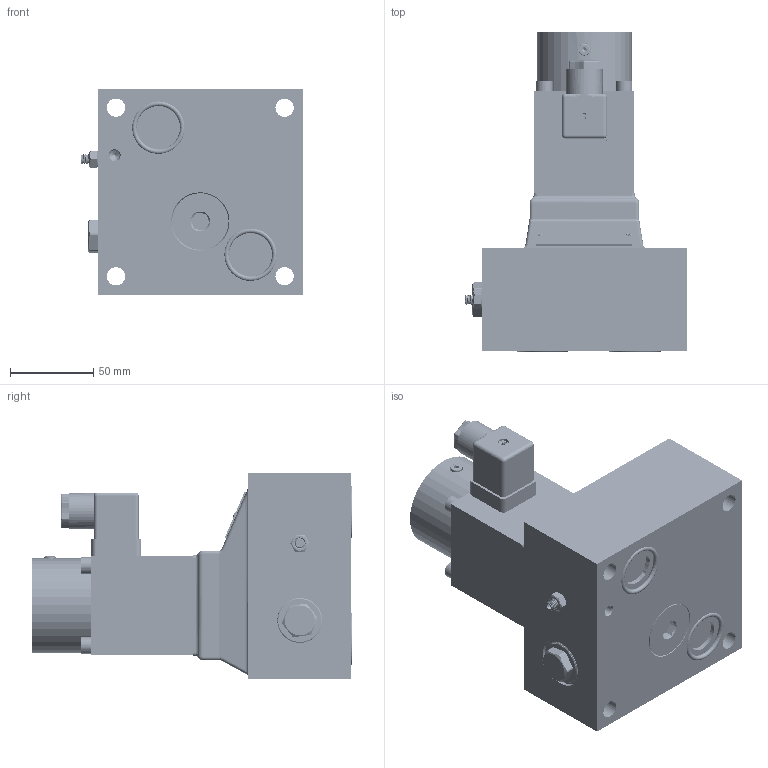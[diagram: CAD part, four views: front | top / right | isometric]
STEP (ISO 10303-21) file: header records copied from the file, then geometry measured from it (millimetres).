
FILE_DESCRIPTION(/* description */ (''),/* implementation_level */ '2;1');
FILE_NAME(/* name */ '2FRA16-4XJ.stp',/* time_stamp */ '2024-10-22T13:14:32+08:00',/* author */ (''),/* organization */ (''),/* preprocessor_version */ 'ST-DEVELOPER v16.7',/* originating_system */ 'SIEMENS PLM Software NX 12.0',/* authorisation */ '');
FILE_SCHEMA (('AUTOMOTIVE_DESIGN { 1 0 10303 214 3 1 1 1 }'));
Products named in the file (1): 2FRA16-4XJ
Bounding box: 133.5 x 193.2 x 123.5 mm (x, y, z)
Volume: 1446771.1 mm3; surface area: 179279.2 mm2
Topology: 35 solids, 38 shells, 965 faces, 2277 edges, 1432 vertices
Faces by surface type: plane 430, cylinder 320, bspline 91, cone 66, torus 45, sphere 13
Full cylindrical faces by diameter (mm): 1.5 x2, 1.8 x4, 2 x2, 3 x41, 3.5 x1, 4 x2, 4.917 x56, 5 x4, 5.7 x1, 6 x11, 6.5 x5, 7 x1, 7.9 x1, 8 x3, 9 x1, 10 x9, 10.5 x1, 11 x8, 12.085 x1, 12.1 x1, 16 x1, 17.5 x1, 18 x5, 18.376 x5, 20 x4, 22 x1, 23 x4, 23.5 x1, 25 x1, 25.5 x1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
Entity records: 95192 total; most frequent: CARTESIAN_POINT 76296, DIRECTION 3477, ORIENTED_EDGE 3336, EDGE_CURVE 1668, AXIS2_PLACEMENT_3D 1386, VERTEX_POINT 1163, EDGE_LOOP 1128, ADVANCED_FACE 853
